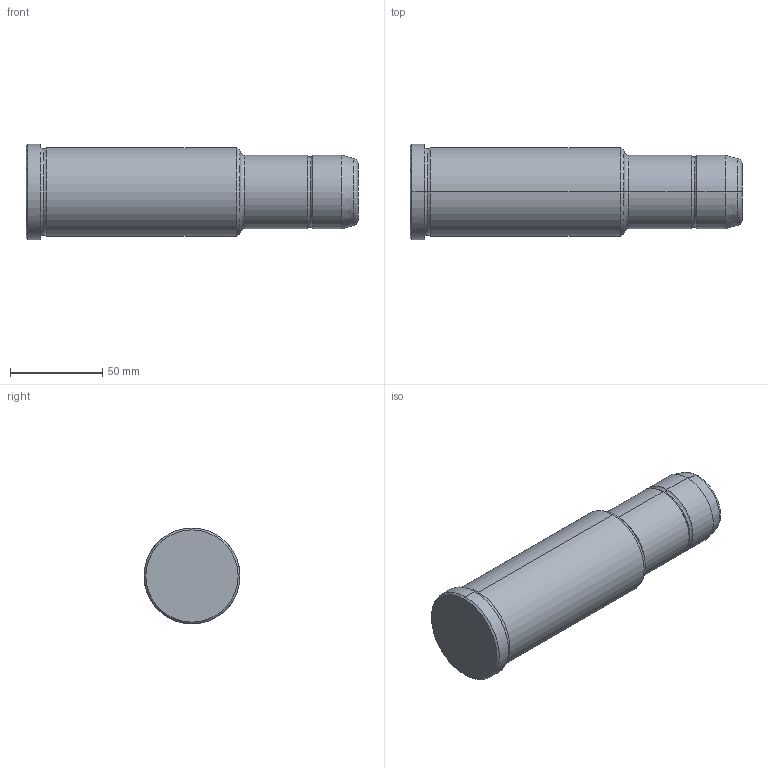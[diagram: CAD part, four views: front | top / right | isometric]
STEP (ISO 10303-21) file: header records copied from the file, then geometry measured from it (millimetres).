
FILE_DESCRIPTION(('CATIA V5 STEP Exchange'),'2;1');
FILE_NAME('C:\Users\Utente\Desktop\IO LAVORO\3D X SITO CF\X SITO\PLASTICA\351\351-40X116X180.stp','2021-10-07T13:35:33+00:00',('none'),('none'),'CATIA Version 5 Release 20 GA (IN-10)','CATIA V5 STEP AP203','none');
FILE_SCHEMA(('CONFIG_CONTROL_DESIGN'));
Length unit declared in the file: millimetre
Products named in the file (1): 351-40X116X180
Bounding box: 180 x 52 x 52 mm (x, y, z)
Volume: 290929.6 mm3; surface area: 29243.1 mm2
Topology: 1 solids, 1 shells, 30 faces, 86 edges, 60 vertices
Faces by surface type: torus 12, cylinder 8, cone 6, plane 4
Entity records: 1112 total; most frequent: CARTESIAN_POINT 289, ORIENTED_EDGE 172, DIRECTION 138, AXIS2_PLACEMENT_3D 95, EDGE_CURVE 86, CIRCLE 64, VERTEX_POINT 60, EDGE_LOOP 32
